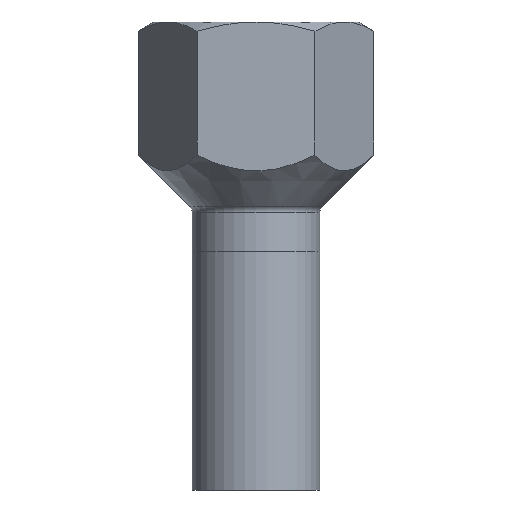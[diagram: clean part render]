
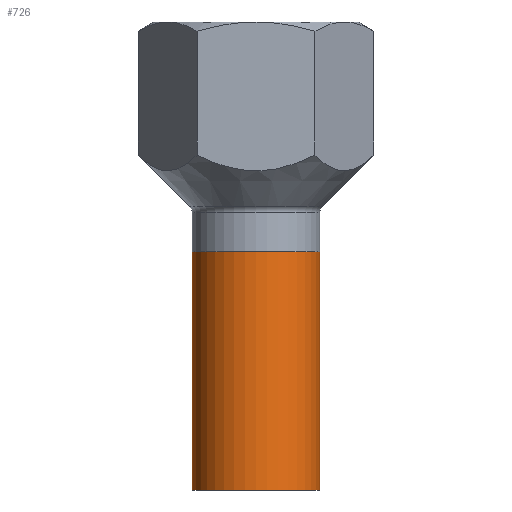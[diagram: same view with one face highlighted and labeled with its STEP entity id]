
A CAD part, front view. The second image highlights one B-rep face of the part: STEP entity #726.
In plain terms, the highlighted cylindrical face has radius 7.5 mm (diameter 15 mm), a partial arc.
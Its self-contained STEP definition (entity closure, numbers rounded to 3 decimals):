
#11 = EDGE_CURVE ( 'NONE', #496, #371, #323, .T. ) ;
#40 = DIRECTION ( 'NONE',  ( 1., 0., 0. ) ) ;
#55 = EDGE_CURVE ( 'NONE', #784, #981, #1321, .T. ) ;
#66 = VECTOR ( 'NONE', #1236, 1000. ) ;
#68 = CARTESIAN_POINT ( 'NONE',  ( 0., 0., 28. ) ) ;
#104 = VECTOR ( 'NONE', #1333, 1000. ) ;
#107 = CARTESIAN_POINT ( 'NONE',  ( 7.5, 0., 0. ) ) ;
#108 = DIRECTION ( 'NONE',  ( -1., 0., 0. ) ) ;
#110 = CARTESIAN_POINT ( 'NONE',  ( -7.5, 0., 0. ) ) ;
#190 = AXIS2_PLACEMENT_3D ( 'NONE', #68, #1099, #1329 ) ;
#323 = CIRCLE ( 'NONE', #711, 7.5 ) ;
#353 = CARTESIAN_POINT ( 'NONE',  ( 0., 0., 0. ) ) ;
#371 = VERTEX_POINT ( 'NONE', #107 ) ;
#464 = CYLINDRICAL_SURFACE ( 'NONE', #652, 7.5 ) ;
#491 = CARTESIAN_POINT ( 'NONE',  ( 7.5, 0., 28. ) ) ;
#496 = VERTEX_POINT ( 'NONE', #110 ) ;
#570 = DIRECTION ( 'NONE',  ( 0., 0., 1. ) ) ;
#580 = ORIENTED_EDGE ( 'NONE', *, *, #11, .T. ) ;
#652 = AXIS2_PLACEMENT_3D ( 'NONE', #919, #1149, #108 ) ;
#687 = ORIENTED_EDGE ( 'NONE', *, *, #906, .F. ) ;
#705 = EDGE_LOOP ( 'NONE', ( #687, #1213, #862, #580 ) ) ;
#711 = AXIS2_PLACEMENT_3D ( 'NONE', #353, #570, #40 ) ;
#726 = ADVANCED_FACE ( 'NONE', ( #1005 ), #464, .T. ) ;
#784 = VERTEX_POINT ( 'NONE', #1162 ) ;
#862 = ORIENTED_EDGE ( 'NONE', *, *, #953, .T. ) ;
#906 = EDGE_CURVE ( 'NONE', #981, #371, #1166, .T. ) ;
#919 = CARTESIAN_POINT ( 'NONE',  ( 0., 0., 28. ) ) ;
#953 = EDGE_CURVE ( 'NONE', #784, #496, #985, .T. ) ;
#981 = VERTEX_POINT ( 'NONE', #491 ) ;
#985 = LINE ( 'NONE', #1328, #104 ) ;
#1005 = FACE_OUTER_BOUND ( 'NONE', #705, .T. ) ;
#1099 = DIRECTION ( 'NONE',  ( 0., 0., 1. ) ) ;
#1125 = CARTESIAN_POINT ( 'NONE',  ( 7.5, 0., 28. ) ) ;
#1149 = DIRECTION ( 'NONE',  ( 0., 0., -1. ) ) ;
#1162 = CARTESIAN_POINT ( 'NONE',  ( -7.5, 0., 28. ) ) ;
#1166 = LINE ( 'NONE', #1125, #66 ) ;
#1213 = ORIENTED_EDGE ( 'NONE', *, *, #55, .F. ) ;
#1236 = DIRECTION ( 'NONE',  ( 0., 0., -1. ) ) ;
#1321 = CIRCLE ( 'NONE', #190, 7.5 ) ;
#1328 = CARTESIAN_POINT ( 'NONE',  ( -7.5, 0., 28. ) ) ;
#1329 = DIRECTION ( 'NONE',  ( 1., 0., 0. ) ) ;
#1333 = DIRECTION ( 'NONE',  ( 0., 0., -1. ) ) ;
